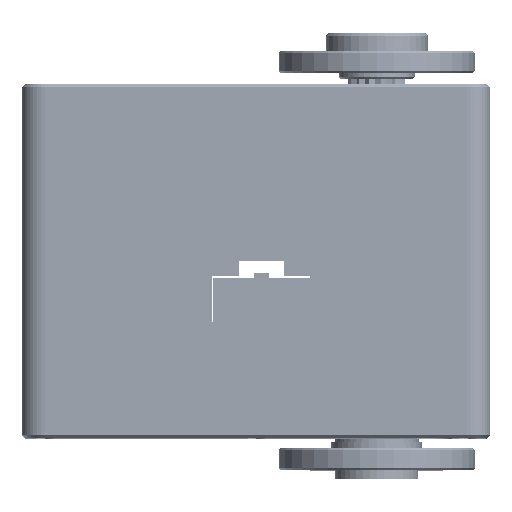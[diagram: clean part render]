
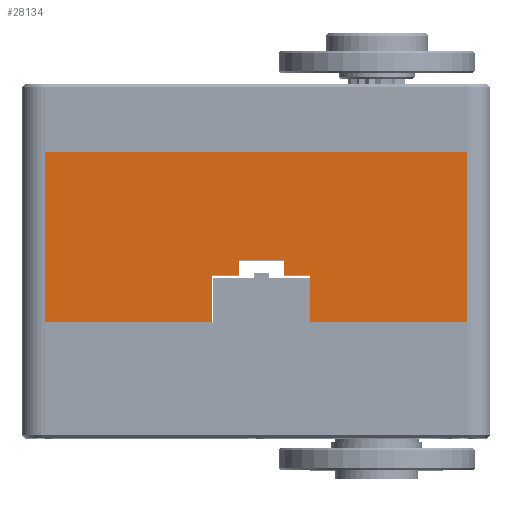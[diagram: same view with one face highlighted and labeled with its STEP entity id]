
A CAD part, top view. The second image highlights one B-rep face of the part: STEP entity #28134.
In plain terms, the highlighted planar face has unit normal (0, 0, 1).
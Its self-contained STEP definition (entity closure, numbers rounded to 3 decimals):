
#3356=FACE_OUTER_BOUND('',#5001,.T.);
#5001=EDGE_LOOP('',(#18920,#18921,#18922,#18923,#18924,#18925,#18926,#18927,
#18928,#18929,#18930,#18931));
#7702=LINE('',#38418,#9563);
#7714=LINE('',#38459,#9575);
#7745=LINE('',#38528,#9606);
#7746=LINE('',#38532,#9607);
#7747=LINE('',#38534,#9608);
#7748=LINE('',#38536,#9609);
#7749=LINE('',#38538,#9610);
#7750=LINE('',#38540,#9611);
#7751=LINE('',#38541,#9612);
#7752=LINE('',#38542,#9613);
#7753=LINE('',#38544,#9614);
#7754=LINE('',#38545,#9615);
#9563=VECTOR('',#32139,56.);
#9575=VECTOR('',#32171,22.2);
#9606=VECTOR('',#32230,6.2);
#9607=VECTOR('',#32233,6.);
#9608=VECTOR('',#32234,2.);
#9609=VECTOR('',#32235,3.5);
#9610=VECTOR('',#32236,6.2);
#9611=VECTOR('',#32237,20.8);
#9612=VECTOR('',#32238,22.6);
#9613=VECTOR('',#32239,22.6);
#9614=VECTOR('',#32240,3.5);
#9615=VECTOR('',#32241,2.);
#11425=VERTEX_POINT('',#38415);
#11426=VERTEX_POINT('',#38417);
#11444=VERTEX_POINT('',#38456);
#11445=VERTEX_POINT('',#38458);
#11469=VERTEX_POINT('',#38526);
#11470=VERTEX_POINT('',#38530);
#11471=VERTEX_POINT('',#38531);
#11472=VERTEX_POINT('',#38533);
#11473=VERTEX_POINT('',#38535);
#11474=VERTEX_POINT('',#38537);
#11475=VERTEX_POINT('',#38539);
#11476=VERTEX_POINT('',#38543);
#14348=EDGE_CURVE('',#11425,#11426,#7702,.T.);
#14368=EDGE_CURVE('',#11445,#11444,#7714,.T.);
#14404=EDGE_CURVE('',#11444,#11469,#7745,.T.);
#14405=EDGE_CURVE('',#11470,#11471,#7746,.T.);
#14406=EDGE_CURVE('',#11470,#11472,#7747,.T.);
#14407=EDGE_CURVE('',#11473,#11472,#7748,.T.);
#14408=EDGE_CURVE('',#11474,#11473,#7749,.T.);
#14409=EDGE_CURVE('',#11474,#11475,#7750,.T.);
#14410=EDGE_CURVE('',#11475,#11426,#7751,.T.);
#14411=EDGE_CURVE('',#11425,#11445,#7752,.T.);
#14412=EDGE_CURVE('',#11476,#11469,#7753,.T.);
#14413=EDGE_CURVE('',#11471,#11476,#7754,.T.);
#18920=ORIENTED_EDGE('',*,*,#14405,.F.);
#18921=ORIENTED_EDGE('',*,*,#14406,.T.);
#18922=ORIENTED_EDGE('',*,*,#14407,.F.);
#18923=ORIENTED_EDGE('',*,*,#14408,.F.);
#18924=ORIENTED_EDGE('',*,*,#14409,.T.);
#18925=ORIENTED_EDGE('',*,*,#14410,.T.);
#18926=ORIENTED_EDGE('',*,*,#14348,.F.);
#18927=ORIENTED_EDGE('',*,*,#14411,.T.);
#18928=ORIENTED_EDGE('',*,*,#14368,.T.);
#18929=ORIENTED_EDGE('',*,*,#14404,.T.);
#18930=ORIENTED_EDGE('',*,*,#14412,.F.);
#18931=ORIENTED_EDGE('',*,*,#14413,.F.);
#27824=PLANE('',#29943);
#28134=ADVANCED_FACE('',(#3356),#27824,.T.);
#29943=AXIS2_PLACEMENT_3D('',#38529,#32231,#32232);
#32139=DIRECTION('',(1.,0.,0.));
#32171=DIRECTION('',(1.,0.,0.));
#32230=DIRECTION('',(0.,1.,0.));
#32231=DIRECTION('center_axis',(0.,0.,1.));
#32232=DIRECTION('ref_axis',(1.,0.,0.));
#32233=DIRECTION('',(-1.,0.,0.));
#32234=DIRECTION('',(0.,-1.,0.));
#32235=DIRECTION('',(-1.,0.,0.));
#32236=DIRECTION('',(0.,1.,0.));
#32237=DIRECTION('',(1.,0.,0.));
#32238=DIRECTION('',(0.,1.,0.));
#32239=DIRECTION('',(0.,-1.,0.));
#32240=DIRECTION('',(-1.,0.,0.));
#32241=DIRECTION('',(0.,-1.,0.));
#38415=CARTESIAN_POINT('',(-28.,19.6,17.));
#38417=CARTESIAN_POINT('',(28.,19.6,17.));
#38418=CARTESIAN_POINT('',(-28.,19.6,17.));
#38456=CARTESIAN_POINT('',(-5.8,-3.,17.));
#38458=CARTESIAN_POINT('',(-28.,-3.,17.));
#38459=CARTESIAN_POINT('',(-28.,-3.,17.));
#38526=CARTESIAN_POINT('',(-5.8,3.2,17.));
#38528=CARTESIAN_POINT('',(-5.8,-3.,17.));
#38529=CARTESIAN_POINT('Origin',(-31.,0.,17.));
#38530=CARTESIAN_POINT('',(3.7,5.2,17.));
#38531=CARTESIAN_POINT('',(-2.3,5.2,17.));
#38532=CARTESIAN_POINT('',(3.7,5.2,17.));
#38533=CARTESIAN_POINT('',(3.7,3.2,17.));
#38534=CARTESIAN_POINT('',(3.7,5.2,17.));
#38535=CARTESIAN_POINT('',(7.2,3.2,17.));
#38536=CARTESIAN_POINT('',(7.2,3.2,17.));
#38537=CARTESIAN_POINT('',(7.2,-3.,17.));
#38538=CARTESIAN_POINT('',(7.2,-3.,17.));
#38539=CARTESIAN_POINT('',(28.,-3.,17.));
#38540=CARTESIAN_POINT('',(7.2,-3.,17.));
#38541=CARTESIAN_POINT('',(28.,-3.,17.));
#38542=CARTESIAN_POINT('',(-28.,19.6,17.));
#38543=CARTESIAN_POINT('',(-2.3,3.2,17.));
#38544=CARTESIAN_POINT('',(-2.3,3.2,17.));
#38545=CARTESIAN_POINT('',(-2.3,5.2,17.));
